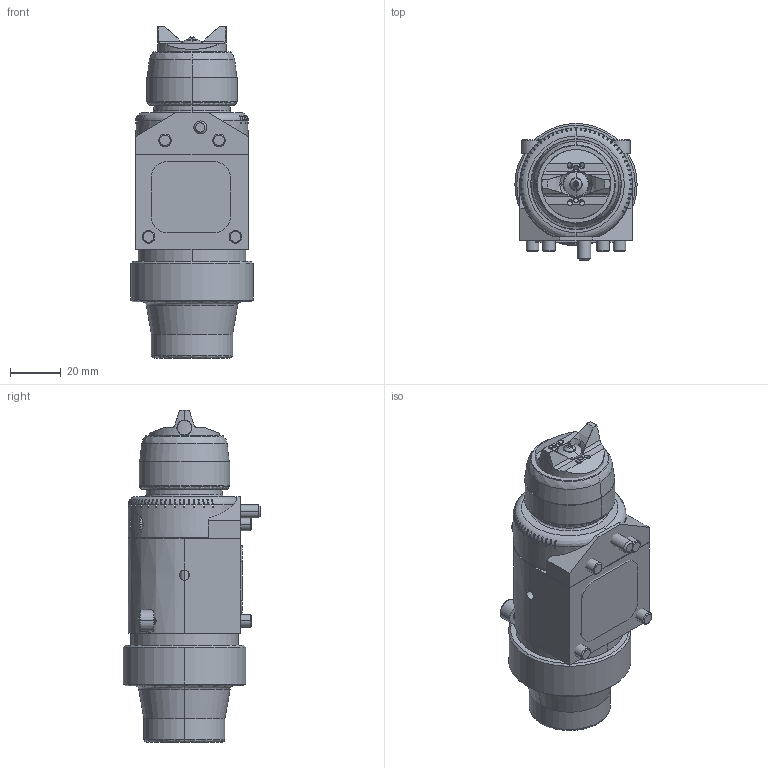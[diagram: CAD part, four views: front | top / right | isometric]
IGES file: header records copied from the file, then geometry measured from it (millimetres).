
Start section:  PTC IGES file: 26b570-en-c.igs
Global section: file name: 26b570-en-c.igs; native system: Creo Parametric by PTC Inc.; preprocessor: 2021072; author: qtmwp1; organization: Unknown; date: 20220425.090534; units: inch
Bounding box: 48.26 x 54.23 x 130.97 mm (x, y, z)
Surface area: 39403.8 mm2 (no closed solid volume)
Topology: 0 solids, 0 shells, 332 faces, 1885 edges, 1885 vertices
Faces by surface type: revolution 183, bspline 149
